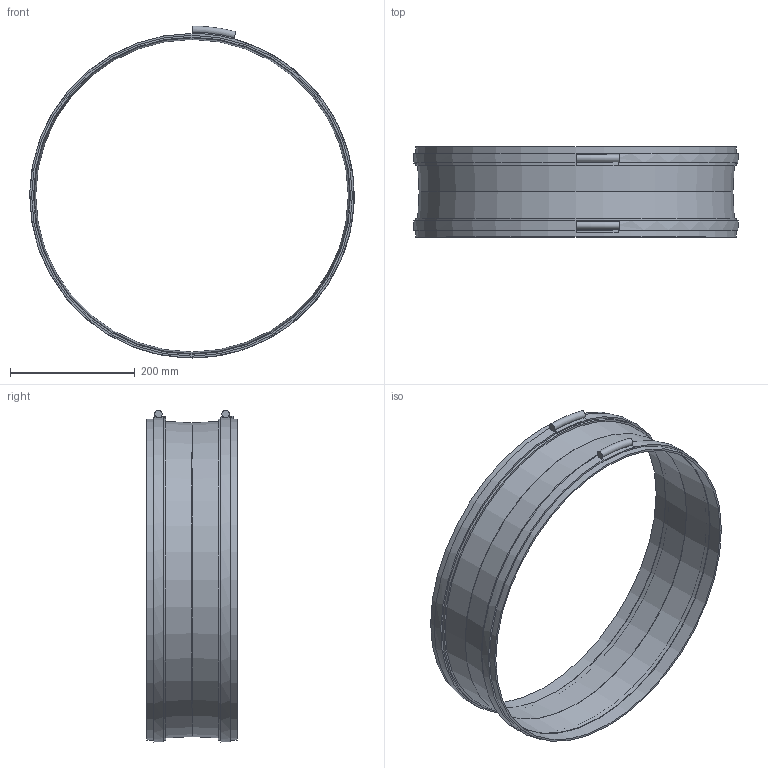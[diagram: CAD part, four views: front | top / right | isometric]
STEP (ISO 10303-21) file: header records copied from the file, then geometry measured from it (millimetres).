
FILE_DESCRIPTION(/* description */ (''),/* implementation_level */ '2;1');
FILE_NAME(/* name */ 'Z:\Output\FM_500-01678-001.stp',/* time_stamp */ '2017-07-11T10:21:30+02:00',/* author */ ('jayeshpanchal'),/* organization */ (''),/* preprocessor_version */ 'ST-DEVELOPER v16.5',/* originating_system */ 'Autodesk Inventor 2017',/* authorisation */ '');
FILE_SCHEMA (('AUTOMOTIVE_DESIGN { 1 0 10303 214 3 1 1 }'));
Length unit declared in the file: millimetre
Products named in the file (1): FM-1
Bounding box: 521 x 145 x 532.98 mm (x, y, z)
Volume: 613196.1 mm3; surface area: 559578.8 mm2
Topology: 3 solids, 3 shells, 36 faces, 66 edges, 40 vertices
Faces by surface type: plane 16, cylinder 14, cone 4, torus 2
Full cylindrical faces by diameter (mm): 509 x4, 515 x4, 521 x2
Entity records: 883 total; most frequent: DIRECTION 162, CARTESIAN_POINT 129, ORIENTED_EDGE 108, AXIS2_PLACEMENT_3D 73, EDGE_LOOP 60, EDGE_CURVE 52, VERTEX_POINT 40, FACE_OUTER_BOUND 36
